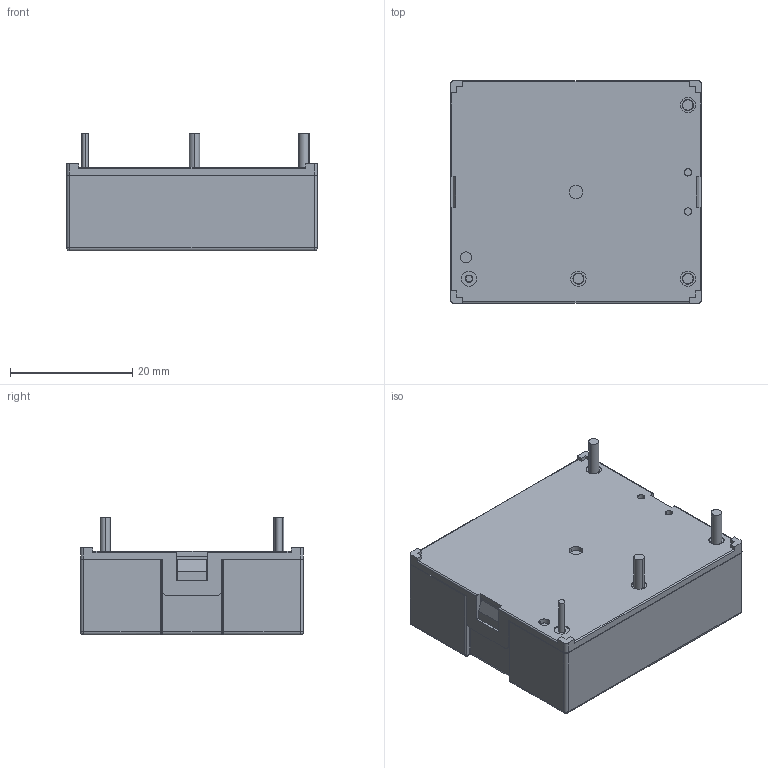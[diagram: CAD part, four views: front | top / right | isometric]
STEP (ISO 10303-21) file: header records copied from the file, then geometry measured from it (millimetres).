
FILE_DESCRIPTION((''),'2;1');
FILE_NAME('SM34S_431_511_P1GBB','2020-07-14T09:54:18',('youlianqiao'),(''),'CREO PARAMETRIC BY PTC INC, 2019080','CREO PARAMETRIC BY PTC INC, 2019080','');
FILE_SCHEMA(('CONFIG_CONTROL_DESIGN'));
Length unit declared in the file: millimetre
Products named in the file (1): SM34S_431_511_P1GBB
Bounding box: 41 x 36.4 x 19.3 mm (x, y, z)
Volume: 20279.5 mm3; surface area: 5780.4 mm2
Topology: 1 solids, 1 shells, 211 faces, 592 edges, 390 vertices
Faces by surface type: plane 113, cylinder 86, torus 8, sphere 4
Entity records: 6905 total; most frequent: CARTESIAN_POINT 1260, DIRECTION 1192, ORIENTED_EDGE 1176, EDGE_CURVE 588, AXIS2_PLACEMENT_3D 409, VERTEX_POINT 390, VECTOR 374, LINE 374
